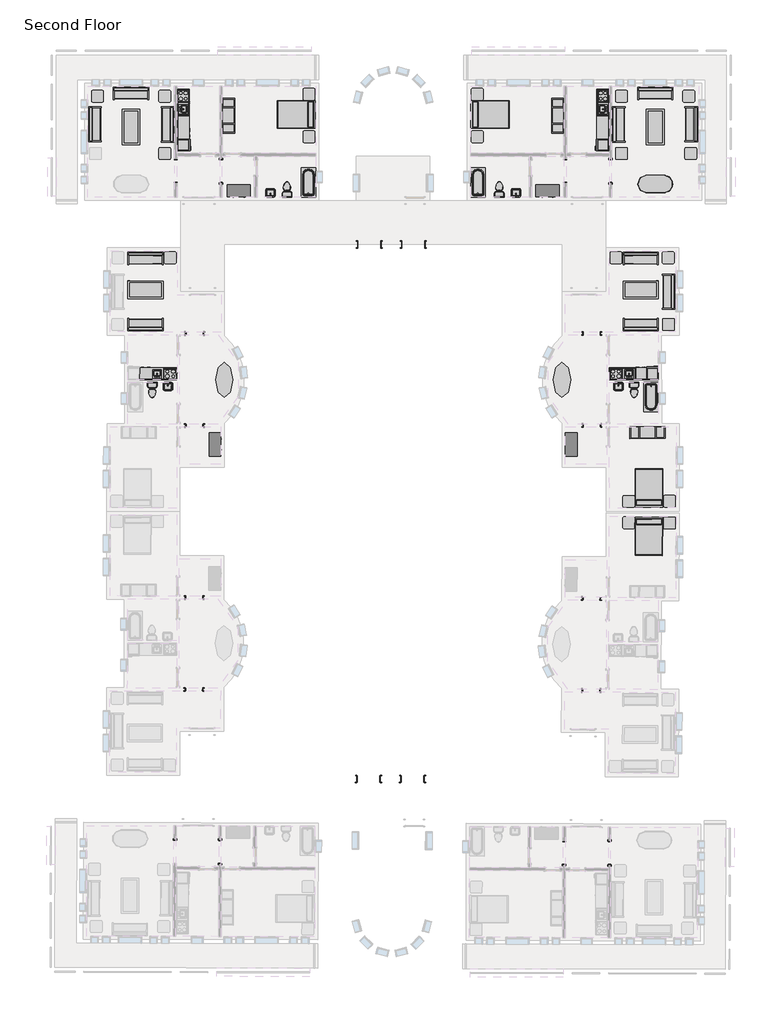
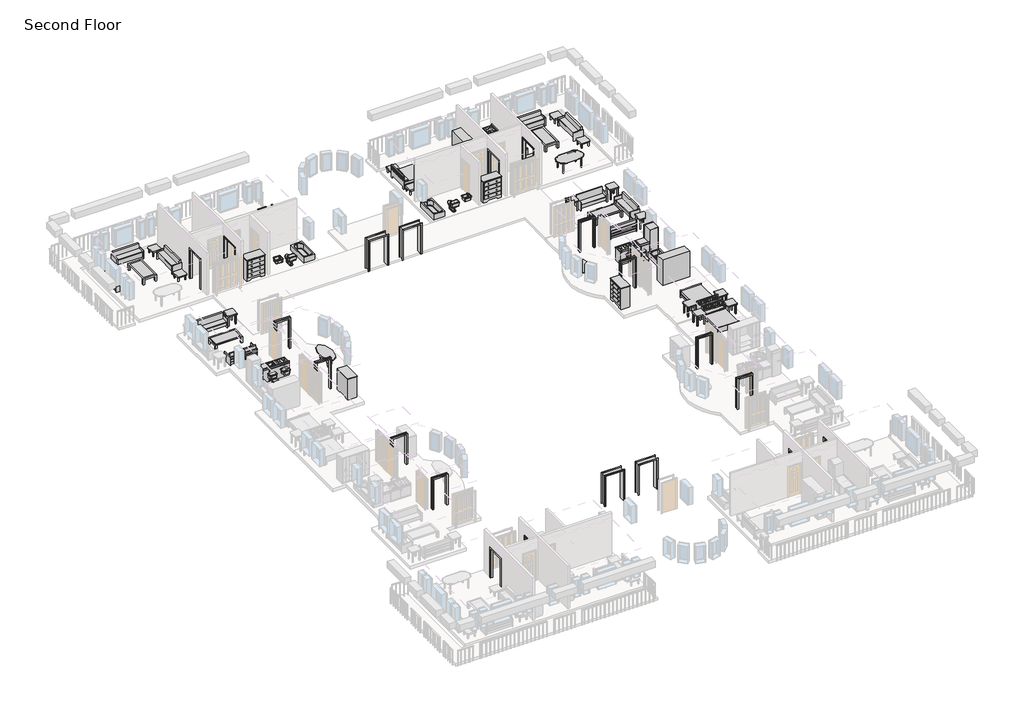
# One storey, part 8 of 8: 52 furniture elements, 35 proxies, 15 flow terminals.
"""IFC4 building model written with IfcOpenShell, lengths in millimetres."""

from ifc_helpers import new_model, si_unit, origin, place, context, project, spatial, transform, mapped, element, save
from components import m_cook_top_4_unit2_0615_x_500mm_249f3515, m_cook_top_4_unit2_0615_x_500mm_c91639ce, m_dishwasher_610_x_610_x_875mm_54ecfc4c, m_dishwasher_610_x_610_x_875mm_75336c20, m_kitchenette_medium_1372mm_e05c6bec, m_kitchenette_medium_1372mm_39f1532f, m_passage_opening_cased_0915_x_2134mm_b7ef4dee, m_passage_opening_cased_0915_x_2134mm_5e741ba8, m_passage_opening_cased_1220_x_2134mm_87a8d9c2, m_passage_opening_cased_1220_x_2134mm_f04423fa, m_passage_opening_cased_1220_x_2134mm_7296280d, m_passage_opening_cased_1220_x_2134mm_b92f2863, m_refrigerator_600_x_660mm_a466bf94, m_refrigerator_600_x_660mm_0a899b9c, m_sink_kitchen_island_450_x_450mm_f969cf2d, m_sink_kitchen_island_450_x_450mm_f6c2c534, m_sink_vanity_square_500_x_440mm_1e229b74, m_sink_vanity_square_500_x_440mm_f3cfe680, m_toilet_domestic_3d_m_toilet_domestic_3d_5cb52bd4, m_toilet_domestic_3d_m_toilet_domestic_3d_183bbd19, m_toilet_domestic_3d_m_toilet_domestic_3d_43425dfb, m_toilet_domestic_3d_m_toilet_domestic_3d_5530cc89, m_tub_rectangular_3d_m_tub_rectangular_3d_3a981ad5, m_tub_rectangular_3d_m_tub_rectangular_3d_c2020133, m_bed_shaker_1422_x_1981mm_double_096e7f55, m_bed_shaker_1422_x_1981mm_double_097b173b, m_counter_top_w_sink_hole_600mm_depth_1fb56bb9, m_counter_top_w_sink_hole_600mm_depth_08c4f679, m_counter_top_w_sink_hole_600mm_depth_60928b92, m_counter_top_w_sink_hole_600mm_depth_7e9aa94d, m_dresser_1220_x_1525_x_0610mm_18e1f140, m_dresser_1220_x_1525_x_0610mm_4e5de046, m_entertainment_center_1830_x_1830_x_0610mm_f77a9b93, m_entertainment_center_1830_x_1830_x_0610mm_4f6058a0, m_sofa_1830mm_58d08fc1, m_sofa_1830mm_3da2e71b, m_sofa1_1830mm_f9e8a66b, m_sofa1_1830mm_493d6964, m_table_coffee_0915_x_1830_x_0457mm_134cd960, m_table_coffee_0915_x_1830_x_0457mm_595c1ebd, m_table_dining_oval_0915_x_1830mm_a7cfbe21, m_table_ellipse_1800_x_900mm_fd46d5a5, m_table_ellipse_1800_x_900mm_f7269293, m_table_end_cb6ea12e, m_table_end_aa2764bc, m_table_end_0610_x_0160mm_e0e5b28f, m_table_end_0610_x_0160mm_ccef8dc9

model = new_model("IFC4")

# Units and contexts
model_context = context("Model", 3, world=origin())
ifc_project = project(units=[si_unit("LENGTHUNIT", "METRE", prefix="MILLI")], contexts=[model_context])

# Site, building, storey
site = spatial("IfcSite", under=ifc_project)
building = spatial("IfcBuilding", under=site)
storey = spatial("IfcBuildingStorey", under=building, Name="Second Floor", Elevation=3048.0)

# Proxies
placement = place(None, origin())
m_cook_top_4_unit2_0615_x_500mm_shape = m_cook_top_4_unit2_0615_x_500mm_249f3515(model_context)
element("IfcBuildingElementProxy", 1, Name="M_Cook Top-4 Unit2 : 0615 x 500mm", ObjectType="M_Cook Top-4 Unit2 : 0615 x 500mm", at=placement, inside=storey, context=model_context, shape_type="MappedRepresentation", body=[
    mapped(m_cook_top_4_unit2_0615_x_500mm_shape, transform((-8054.9916203, 1914.054661, 3048.0), x_axis=(0.0, -1.0, 0.0), y_axis=(1.0, 0.0, 0.0), z_axis=(0.0, 0.0, 1.0))),
])
element("IfcBuildingElementProxy", 2, Name="M_Cook Top-4 Unit2 : 0615 x 500mm", ObjectType="M_Cook Top-4 Unit2 : 0615 x 500mm", at=placement, inside=storey, context=model_context, shape_type="MappedRepresentation", body=[
    mapped(m_cook_top_4_unit2_0615_x_500mm_shape, transform((-30530.5448332, -12522.1734226, 3048.0), x_axis=(-0.9999989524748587, 0.0014474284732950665, 0.0), y_axis=(-0.0014474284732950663, -0.9999989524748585, 0.0), z_axis=(0.0, 0.0, 0.9999999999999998))),
])
m_cook_top_4_unit2_0615_x_500mm_2_shape = m_cook_top_4_unit2_0615_x_500mm_c91639ce(model_context)
element("IfcBuildingElementProxy", 3, Name="M_Cook Top-4 Unit2 : 0615 x 500mm", ObjectType="M_Cook Top-4 Unit2 : 0615 x 500mm", at=placement, inside=storey, context=model_context, shape_type="MappedRepresentation", body=[
    mapped(m_cook_top_4_unit2_0615_x_500mm_2_shape, transform((-7383.6384074, -12522.1734226, 3048.0), x_axis=(0.9999989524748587, 0.0014474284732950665, 0.0), y_axis=(-0.0014474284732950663, 0.9999989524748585, 0.0), z_axis=(0.0, 0.0, 0.9999999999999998))),
])
element("IfcBuildingElementProxy", 4, Name="M_Cook Top-4 Unit2 : 0615 x 500mm", ObjectType="M_Cook Top-4 Unit2 : 0615 x 500mm", at=placement, inside=storey, context=model_context, shape_type="MappedRepresentation", body=[
    mapped(m_cook_top_4_unit2_0615_x_500mm_2_shape, transform((-29859.1916203, 1914.054661, 3048.0), x_axis=(0.0, -1.0, 0.0), y_axis=(1.0, 0.0, 0.0), z_axis=(0.0, 0.0, 1.0))),
])
m_dishwasher_610_x_610_x_875mm_shape = m_dishwasher_610_x_610_x_875mm_54ecfc4c(model_context)
element("IfcBuildingElementProxy", 5, Name="M_Dishwasher : 610 x 610 x 875mm", ObjectType="M_Dishwasher : 610 x 610 x 875mm", at=placement, inside=storey, context=model_context, shape_type="MappedRepresentation", body=[
    mapped(m_dishwasher_610_x_610_x_875mm_shape, transform((-8321.6411851, 353.5721295, 3048.0), x_axis=(0.0, -1.0, 0.0), y_axis=(1.0, 0.0, 0.0), z_axis=(0.0, 0.0, 1.0))),
])
element("IfcBuildingElementProxy", 6, Name="M_Dishwasher : 610 x 610 x 875mm", ObjectType="M_Dishwasher : 610 x 610 x 875mm", at=placement, inside=storey, context=model_context, shape_type="MappedRepresentation", body=[
    mapped(m_dishwasher_610_x_610_x_875mm_shape, transform((-31445.6404496, -12254.1990417, 3048.0), x_axis=(-0.9999989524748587, 0.0014474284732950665, 0.0), y_axis=(-0.0014474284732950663, -0.9999989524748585, 0.0), z_axis=(0.0, 0.0, 0.9999999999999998))),
])
m_dishwasher_610_x_610_x_875mm_2_shape = m_dishwasher_610_x_610_x_875mm_75336c20(model_context)
element("IfcBuildingElementProxy", 7, Name="M_Dishwasher : 610 x 610 x 875mm", ObjectType="M_Dishwasher : 610 x 610 x 875mm", at=placement, inside=storey, context=model_context, shape_type="MappedRepresentation", body=[
    mapped(m_dishwasher_610_x_610_x_875mm_2_shape, transform((-6468.5427911, -12254.1990417, 3048.0), x_axis=(0.9999989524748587, 0.0014474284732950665, 0.0), y_axis=(-0.0014474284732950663, 0.9999989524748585, 0.0), z_axis=(0.0, 0.0, 0.9999999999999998))),
])
element("IfcBuildingElementProxy", 8, Name="M_Dishwasher : 610 x 610 x 875mm", ObjectType="M_Dishwasher : 610 x 610 x 875mm", at=placement, inside=storey, context=model_context, shape_type="MappedRepresentation", body=[
    mapped(m_dishwasher_610_x_610_x_875mm_2_shape, transform((-29592.5420555, 353.5721295, 3048.0), x_axis=(0.0, -1.0, 0.0), y_axis=(1.0, 0.0, 0.0), z_axis=(0.0, 0.0, 1.0))),
])
m_kitchenette_medium_1372mm_shape = m_kitchenette_medium_1372mm_e05c6bec(model_context)
element("IfcBuildingElementProxy", 9, Name="M_Kitchenette - Medium : 1372mm", ObjectType="M_Kitchenette - Medium : 1372mm", at=placement, inside=storey, context=model_context, shape_type="MappedRepresentation", body=[
    mapped(m_kitchenette_medium_1372mm_shape, transform((-7749.9916203, 1589.7923659, 3048.0), x_axis=(0.0, -1.0, 0.0), y_axis=(1.0, 0.0, 0.0), z_axis=(0.0, 0.0, 1.0))),
])
m_kitchenette_medium_1372mm_2_shape = m_kitchenette_medium_1372mm_39f1532f(model_context)
element("IfcBuildingElementProxy", 10, Name="M_Kitchenette - Medium : 1372mm", ObjectType="M_Kitchenette - Medium : 1372mm", at=placement, inside=storey, context=model_context, shape_type="MappedRepresentation", body=[
    mapped(m_kitchenette_medium_1372mm_2_shape, transform((-30164.1916203, 1589.7923659, 3048.0), x_axis=(0.0, -1.0, 0.0), y_axis=(1.0, 0.0, 0.0), z_axis=(0.0, 0.0, 1.0))),
])
element("IfcBuildingElementProxy", 11, Name="M_Kitchenette - Medium1 : 1372mm 2", ObjectType="M_Kitchenette - Medium1 : 1372mm 2", at=placement, inside=storey, context=model_context, shape_type="MappedRepresentation", body=[
    mapped(m_kitchenette_medium_1372mm_shape, transform((-30855.2482543, -12826.7037567, 3048.0), x_axis=(-0.9999989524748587, 0.0014474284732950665, 0.0), y_axis=(-0.0014474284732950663, -0.9999989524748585, 0.0), z_axis=(0.0, 0.0, 0.9999999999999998))),
])
element("IfcBuildingElementProxy", 12, Name="M_Kitchenette - Medium1 : 1372mm 2", ObjectType="M_Kitchenette - Medium1 : 1372mm 2", at=placement, inside=storey, context=model_context, shape_type="MappedRepresentation", body=[
    mapped(m_kitchenette_medium_1372mm_2_shape, transform((-7058.9349863, -12826.7037567, 3048.0), x_axis=(0.9999989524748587, 0.0014474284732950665, 0.0), y_axis=(-0.0014474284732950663, 0.9999989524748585, 0.0), z_axis=(0.0, 0.0, 0.9999999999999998))),
])
m_passage_opening_cased_0915_x_2134mm_shape = m_passage_opening_cased_0915_x_2134mm_b7ef4dee(model_context)
element("IfcBuildingElementProxy", 13, Name="M_Passage Opening-Cased : 0915 x 2134mm", ObjectType="M_Passage Opening-Cased : 0915 x 2134mm", at=placement, inside=storey, context=model_context, shape_type="MappedRepresentation", body=[
    mapped(m_passage_opening_cased_0915_x_2134mm_shape, transform((-29263.1209408, -10426.1057324, 3048.0), x_axis=(0.9999989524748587, -0.0014474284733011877, 0.0), y_axis=(0.0014474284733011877, 0.9999989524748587, 0.0), z_axis=(0.0, 0.0, 1.0))),
])
element("IfcBuildingElementProxy", 14, Name="M_Passage Opening-Cased : 0915 x 2134mm", ObjectType="M_Passage Opening-Cased : 0915 x 2134mm", at=placement, inside=storey, context=model_context, shape_type="MappedRepresentation", body=[
    mapped(m_passage_opening_cased_0915_x_2134mm_shape, transform((-29270.0280695, -15198.1007336, 3048.0), x_axis=(0.9999989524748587, -0.0014474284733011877, 0.0), y_axis=(0.0014474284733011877, 0.9999989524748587, 0.0), z_axis=(0.0, 0.0, 1.0))),
])
element("IfcBuildingElementProxy", 15, Name="M_Passage Opening-Cased : 0915 x 2134mm", ObjectType="M_Passage Opening-Cased : 0915 x 2134mm", at=placement, inside=storey, context=model_context, shape_type="MappedRepresentation", body=[
    mapped(m_passage_opening_cased_0915_x_2134mm_shape, transform((-8677.908724, -28973.7552644, 3048.0), x_axis=(-0.9999905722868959, 0.004342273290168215, 0.0), y_axis=(-0.004342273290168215, -0.9999905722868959, 0.0), z_axis=(0.0, 0.0, 1.0))),
])
element("IfcBuildingElementProxy", 16, Name="M_Passage Opening-Cased : 0915 x 2134mm", ObjectType="M_Passage Opening-Cased : 0915 x 2134mm", at=placement, inside=storey, context=model_context, shape_type="MappedRepresentation", body=[
    mapped(m_passage_opening_cased_0915_x_2134mm_shape, transform((-8657.1873959, -24201.8002534, 3048.0), x_axis=(-0.9999905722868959, 0.004342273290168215, 0.0), y_axis=(-0.004342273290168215, -0.9999905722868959, 0.0), z_axis=(0.0, 0.0, 1.0))),
])
m_passage_opening_cased_0915_x_2134mm_2_shape = m_passage_opening_cased_0915_x_2134mm_5e741ba8(model_context)
element("IfcBuildingElementProxy", 17, Name="M_Passage Opening-Cased : 0915 x 2134mm", ObjectType="M_Passage Opening-Cased : 0915 x 2134mm", at=placement, inside=storey, context=model_context, shape_type="MappedRepresentation", body=[
    mapped(m_passage_opening_cased_0915_x_2134mm_2_shape, transform((-8651.0622999, -10426.1057324, 3048.0), x_axis=(-0.9999989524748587, -0.0014474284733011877, 0.0), y_axis=(0.0014474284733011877, -0.9999989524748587, 0.0), z_axis=(0.0, 0.0, 1.0))),
])
element("IfcBuildingElementProxy", 18, Name="M_Passage Opening-Cased : 0915 x 2134mm", ObjectType="M_Passage Opening-Cased : 0915 x 2134mm", at=placement, inside=storey, context=model_context, shape_type="MappedRepresentation", body=[
    mapped(m_passage_opening_cased_0915_x_2134mm_2_shape, transform((-8644.1551712, -15198.1007336, 3048.0), x_axis=(-0.9999989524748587, -0.0014474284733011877, 0.0), y_axis=(0.0014474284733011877, -0.9999989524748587, 0.0), z_axis=(0.0, 0.0, 1.0))),
])
element("IfcBuildingElementProxy", 19, Name="M_Passage Opening-Cased : 0915 x 2134mm", ObjectType="M_Passage Opening-Cased : 0915 x 2134mm", at=placement, inside=storey, context=model_context, shape_type="MappedRepresentation", body=[
    mapped(m_passage_opening_cased_0915_x_2134mm_2_shape, transform((-29289.8809984, -28914.0863657, 3048.0), x_axis=(0.9999989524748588, -0.0014474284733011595, 0.0), y_axis=(0.0014474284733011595, 0.9999989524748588, 0.0), z_axis=(0.0, 0.0, 1.0))),
])
element("IfcBuildingElementProxy", 20, Name="M_Passage Opening-Cased : 0915 x 2134mm", ObjectType="M_Passage Opening-Cased : 0915 x 2134mm", at=placement, inside=storey, context=model_context, shape_type="MappedRepresentation", body=[
    mapped(m_passage_opening_cased_0915_x_2134mm_2_shape, transform((-29282.9738697, -24142.0913645, 3048.0), x_axis=(0.9999989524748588, -0.0014474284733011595, 0.0), y_axis=(0.0014474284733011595, 0.9999989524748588, 0.0), z_axis=(0.0, 0.0, 1.0))),
])
m_passage_opening_cased_1220_x_2134mm_shape = m_passage_opening_cased_1220_x_2134mm_87a8d9c2(model_context)
element("IfcBuildingElementProxy", 21, Name="M_Passage Opening-Cased : 1220 x 2134mm", ObjectType="M_Passage Opening-Cased : 1220 x 2134mm", at=placement, inside=storey, context=model_context, shape_type="MappedRepresentation", body=[
    mapped(m_passage_opening_cased_1220_x_2134mm_shape, transform((-7665.3416203, -1982.6925047, 3048.0), x_axis=(0.0, 1.0, 0.0), y_axis=(-1.0, 0.0, 0.0), z_axis=(0.0, 0.0, 1.0))),
])
element("IfcBuildingElementProxy", 22, Name="M_Passage Opening-Cased : 1220 x 2134mm", ObjectType="M_Passage Opening-Cased : 1220 x 2134mm", at=placement, inside=storey, context=model_context, shape_type="MappedRepresentation", body=[
    mapped(m_passage_opening_cased_1220_x_2134mm_shape, transform((-10019.0916203, -1999.0698181, 3048.0), x_axis=(0.0, -1.0, 0.0), y_axis=(1.0, 0.0, 0.0), z_axis=(0.0, 0.0, 1.0))),
])
element("IfcBuildingElementProxy", 23, Name="M_Passage Opening-Cased : 1220 x 2134mm", ObjectType="M_Passage Opening-Cased : 1220 x 2134mm", at=placement, inside=storey, context=model_context, shape_type="MappedRepresentation", body=[
    mapped(m_passage_opening_cased_1220_x_2134mm_shape, transform((-30300.0399955, -37354.6106974, 3048.0), x_axis=(-0.0028948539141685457, -0.9999958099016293, 0.0), y_axis=(0.9999958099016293, -0.0028948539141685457, 0.0), z_axis=(0.0, 0.0, 1.0))),
])
element("IfcBuildingElementProxy", 24, Name="M_Passage Opening-Cased : 1220 x 2134mm", ObjectType="M_Passage Opening-Cased : 1220 x 2134mm", at=placement, inside=storey, context=model_context, shape_type="MappedRepresentation", body=[
    mapped(m_passage_opening_cased_1220_x_2134mm_shape, transform((-27946.252448, -37345.047215, 3048.0), x_axis=(0.0028948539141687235, 0.9999958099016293, 0.0), y_axis=(-0.9999958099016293, 0.0028948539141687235, 0.0), z_axis=(0.0, 0.0, 1.0))),
])
m_passage_opening_cased_1220_x_2134mm_2_shape = m_passage_opening_cased_1220_x_2134mm_f04423fa(model_context)
element("IfcBuildingElementProxy", 25, Name="M_Passage Opening-Cased : 1220 x 2134mm", ObjectType="M_Passage Opening-Cased : 1220 x 2134mm", at=placement, inside=storey, context=model_context, shape_type="MappedRepresentation", body=[
    mapped(m_passage_opening_cased_1220_x_2134mm_2_shape, transform((-17916.280277, -5800.8811614, 3048.0), x_axis=(-1.0, 0.0, 0.0), y_axis=(0.0, -1.0, 0.0), z_axis=(0.0, 0.0, 1.0))),
])
element("IfcBuildingElementProxy", 26, Name="M_Passage Opening-Cased : 1220 x 2134mm", ObjectType="M_Passage Opening-Cased : 1220 x 2134mm", at=placement, inside=storey, context=model_context, shape_type="MappedRepresentation", body=[
    mapped(m_passage_opening_cased_1220_x_2134mm_2_shape, transform((-20185.9029636, -5800.8811614, 3048.0), x_axis=(1.0, 0.0, 0.0), y_axis=(0.0, 1.0, 0.0), z_axis=(0.0, 0.0, 1.0))),
])
m_passage_opening_cased_1220_x_2134mm_3_shape = m_passage_opening_cased_1220_x_2134mm_7296280d(model_context)
element("IfcBuildingElementProxy", 27, Name="M_Passage Opening-Cased : 1220 x 2134mm", ObjectType="M_Passage Opening-Cased : 1220 x 2134mm", at=placement, inside=storey, context=model_context, shape_type="MappedRepresentation", body=[
    mapped(m_passage_opening_cased_1220_x_2134mm_3_shape, transform((-30248.8416203, -1982.6925047, 3048.0), x_axis=(0.0, 1.0, 0.0), y_axis=(-1.0, 0.0, 0.0), z_axis=(0.0, 0.0, 1.0))),
])
element("IfcBuildingElementProxy", 28, Name="M_Passage Opening-Cased : 1220 x 2134mm", ObjectType="M_Passage Opening-Cased : 1220 x 2134mm", at=placement, inside=storey, context=model_context, shape_type="MappedRepresentation", body=[
    mapped(m_passage_opening_cased_1220_x_2134mm_3_shape, transform((-27895.0916203, -1999.0698181, 3048.0), x_axis=(0.0, -1.0, 0.0), y_axis=(1.0, 0.0, 0.0), z_axis=(0.0, 0.0, 1.0))),
])
element("IfcBuildingElementProxy", 29, Name="M_Passage Opening-Cased : 1220 x 2134mm", ObjectType="M_Passage Opening-Cased : 1220 x 2134mm", at=placement, inside=storey, context=model_context, shape_type="MappedRepresentation", body=[
    mapped(m_passage_opening_cased_1220_x_2134mm_3_shape, transform((-7716.6346226, -37419.9866307, 3048.0), x_axis=(-0.0028948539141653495, -0.9999958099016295, 0.0), y_axis=(0.9999958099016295, -0.0028948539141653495, 0.0), z_axis=(0.0, 0.0, 1.0))),
])
element("IfcBuildingElementProxy", 30, Name="M_Passage Opening-Cased : 1220 x 2134mm", ObjectType="M_Passage Opening-Cased : 1220 x 2134mm", at=placement, inside=storey, context=model_context, shape_type="MappedRepresentation", body=[
    mapped(m_passage_opening_cased_1220_x_2134mm_3_shape, transform((-10070.3273502, -37396.7956235, 3048.0), x_axis=(0.0028948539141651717, 0.9999958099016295, 0.0), y_axis=(-0.9999958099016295, 0.0028948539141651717, 0.0), z_axis=(0.0, 0.0, 1.0))),
])
m_passage_opening_cased_1220_x_2134mm_4_shape = m_passage_opening_cased_1220_x_2134mm_b92f2863(model_context)
element("IfcBuildingElementProxy", 31, Name="M_Passage Opening-Cased : 1220 x 2134mm", ObjectType="M_Passage Opening-Cased : 1220 x 2134mm", at=placement, inside=storey, context=model_context, shape_type="MappedRepresentation", body=[
    mapped(m_passage_opening_cased_1220_x_2134mm_4_shape, transform((-17956.4772285, -33572.1390027, 3048.0), x_axis=(-0.9999958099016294, 0.0028948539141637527, 0.0), y_axis=(-0.0028948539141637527, -0.9999958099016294, 0.0), z_axis=(0.0, 0.0, 1.0))),
])
element("IfcBuildingElementProxy", 32, Name="M_Passage Opening-Cased : 1220 x 2134mm", ObjectType="M_Passage Opening-Cased : 1220 x 2134mm", at=placement, inside=storey, context=model_context, shape_type="MappedRepresentation", body=[
    mapped(m_passage_opening_cased_1220_x_2134mm_4_shape, transform((-20226.0904051, -33565.5687766, 3048.0), x_axis=(0.9999958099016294, -0.0028948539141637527, 0.0), y_axis=(0.0028948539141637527, 0.9999958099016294, 0.0), z_axis=(0.0, 0.0, 1.0))),
])
m_refrigerator_600_x_660mm_shape = m_refrigerator_600_x_660mm_a466bf94(model_context)
element("IfcBuildingElementProxy", 33, Name="M_Refrigerator : 600 x 660mm", ObjectType="M_Refrigerator : 600 x 660mm", at=placement, inside=storey, context=model_context, shape_type="MappedRepresentation", body=[
    mapped(m_refrigerator_600_x_660mm_shape, transform((-8046.2067105, -687.7464817, 3048.0), x_axis=(0.0, -1.0, 0.0), y_axis=(1.0, 0.0, 0.0), z_axis=(0.0, 0.0, 1.0))),
])
m_refrigerator_600_x_660mm_2_shape = m_refrigerator_600_x_660mm_0a899b9c(model_context)
element("IfcBuildingElementProxy", 34, Name="M_Refrigerator : 600 x 660mm", ObjectType="M_Refrigerator : 600 x 660mm", at=placement, inside=storey, context=model_context, shape_type="MappedRepresentation", body=[
    mapped(m_refrigerator_600_x_660mm_2_shape, transform((-5426.8265991, -12528.1259936, 3048.0), x_axis=(0.9999989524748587, 0.0014474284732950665, 0.0), y_axis=(-0.0014474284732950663, 0.9999989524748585, 0.0), z_axis=(0.0, 0.0, 0.9999999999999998))),
])
element("IfcBuildingElementProxy", 35, Name="M_Refrigerator : 600 x 660mm", ObjectType="M_Refrigerator : 600 x 660mm", at=placement, inside=storey, context=model_context, shape_type="MappedRepresentation", body=[
    mapped(m_refrigerator_600_x_660mm_2_shape, transform((-29867.9765301, -687.7464817, 3048.0), x_axis=(0.0, -1.0, 0.0), y_axis=(1.0, 0.0, 0.0), z_axis=(0.0, 0.0, 1.0))),
])

# Flow terminals
m_sink_kitchen_island_450_x_450mm_shape = m_sink_kitchen_island_450_x_450mm_f969cf2d(model_context)
element("IfcFlowTerminal", 36, ObjectType="M_Sink Kitchen-Island : 450 x 450mm", at=placement, inside=storey, context=model_context, shape_type="MappedRepresentation", body=[
    mapped(m_sink_kitchen_island_450_x_450mm_shape, transform((-8057.3370214, 1243.7439015, 3048.0), x_axis=(0.0, -1.0, 0.0), y_axis=(1.0, 0.0, 0.0), z_axis=(0.0, 0.0, 1.0))),
])
element("IfcFlowTerminal", 37, ObjectType="M_Sink Kitchen-Island : 450 x 450mm", at=placement, inside=storey, context=model_context, shape_type="MappedRepresentation", body=[
    mapped(m_sink_kitchen_island_450_x_450mm_shape, transform((-31200.8514957, -12518.8577971, 3048.0), x_axis=(-0.9999989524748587, 0.0014474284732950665, 0.0), y_axis=(-0.0014474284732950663, -0.9999989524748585, 0.0), z_axis=(0.0, 0.0, 0.9999999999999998))),
])
m_sink_kitchen_island_450_x_450mm_2_shape = m_sink_kitchen_island_450_x_450mm_f6c2c534(model_context)
element("IfcFlowTerminal", 38, ObjectType="M_Sink Kitchen-Island : 450 x 450mm", at=placement, inside=storey, context=model_context, shape_type="MappedRepresentation", body=[
    mapped(m_sink_kitchen_island_450_x_450mm_2_shape, transform((-6713.331745, -12518.8577971, 3048.0), x_axis=(0.9999989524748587, 0.0014474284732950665, 0.0), y_axis=(-0.0014474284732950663, 0.9999989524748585, 0.0), z_axis=(0.0, 0.0, 0.9999999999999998))),
])
element("IfcFlowTerminal", 39, ObjectType="M_Sink Kitchen-Island : 450 x 450mm", at=placement, inside=storey, context=model_context, shape_type="MappedRepresentation", body=[
    mapped(m_sink_kitchen_island_450_x_450mm_2_shape, transform((-29856.8462192, 1243.7439015, 3048.0), x_axis=(0.0, -1.0, 0.0), y_axis=(1.0, 0.0, 0.0), z_axis=(0.0, 0.0, 1.0))),
])
m_sink_vanity_square_500_x_440mm_shape = m_sink_vanity_square_500_x_440mm_1e229b74(model_context)
element("IfcFlowTerminal", 40, ObjectType="M_Sink Vanity-Square : 500 x 440mm", at=placement, inside=storey, context=model_context, shape_type="MappedRepresentation", body=[
    mapped(m_sink_vanity_square_500_x_440mm_shape, transform((-12563.5523798, -3158.1107603, 3048.0), x_axis=(-1.0, 0.0, 0.0), y_axis=(0.0, -1.0, 0.0), z_axis=(0.0, 0.0, 1.0))),
])
element("IfcFlowTerminal", 41, ObjectType="M_Sink Vanity-Square : 500 x 440mm", at=placement, inside=storey, context=model_context, shape_type="MappedRepresentation", body=[
    mapped(m_sink_vanity_square_500_x_440mm_shape, transform((-30677.3455366, -13134.5069817, 3048.0), x_axis=(0.9999989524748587, -0.001447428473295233, 0.0), y_axis=(0.0014474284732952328, 0.9999989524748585, 0.0), z_axis=(0.0, 0.0, 0.9999999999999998))),
])
m_sink_vanity_square_500_x_440mm_2_shape = m_sink_vanity_square_500_x_440mm_f3cfe680(model_context)
element("IfcFlowTerminal", 42, ObjectType="M_Sink Vanity-Square : 500 x 440mm", at=placement, inside=storey, context=model_context, shape_type="MappedRepresentation", body=[
    mapped(m_sink_vanity_square_500_x_440mm_2_shape, transform((-7236.8377041, -13134.5069817, 3048.0), x_axis=(-0.9999989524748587, -0.001447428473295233, 0.0), y_axis=(0.0014474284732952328, -0.9999989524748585, 0.0), z_axis=(0.0, 0.0, 0.9999999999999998))),
])
element("IfcFlowTerminal", 43, ObjectType="M_Sink Vanity-Square : 500 x 440mm", at=placement, inside=storey, context=model_context, shape_type="MappedRepresentation", body=[
    mapped(m_sink_vanity_square_500_x_440mm_2_shape, transform((-25350.6308609, -3158.1107603, 3048.0), x_axis=(1.0, 0.0, 0.0), y_axis=(0.0, 1.0, 0.0), z_axis=(0.0, 0.0, 1.0))),
])
m_toilet_domestic_3d_m_toilet_domestic_3d_shape = m_toilet_domestic_3d_m_toilet_domestic_3d_5cb52bd4(model_context)
m_toilet_domestic_3d_m_toilet_domestic_3d_2_shape = m_toilet_domestic_3d_m_toilet_domestic_3d_183bbd19(model_context)
element("IfcFlowTerminal", 44, ObjectType="M_Toilet-Domestic-3D : M_Toilet-Domestic-3D", at=placement, inside=storey, context=model_context, shape_type="MappedRepresentation", body=[
    mapped(m_toilet_domestic_3d_m_toilet_domestic_3d_shape, transform((-13440.7376477, -2845.185134, 3048.0), x_axis=(-1.0, 0.0, 0.0), y_axis=(0.0, -1.0, 0.0), z_axis=(0.0, 0.0, 1.0))),
    mapped(m_toilet_domestic_3d_m_toilet_domestic_3d_2_shape, transform((-13440.7376477, -2845.185134, 3048.0), x_axis=(-1.0, 0.0, 0.0), y_axis=(0.0, -1.0, 0.0), z_axis=(0.0, 0.0, 1.0))),
])
m_toilet_domestic_3d_m_toilet_domestic_3d_3_shape = m_toilet_domestic_3d_m_toilet_domestic_3d_43425dfb(model_context)
m_toilet_domestic_3d_m_toilet_domestic_3d_4_shape = m_toilet_domestic_3d_m_toilet_domestic_3d_5530cc89(model_context)
element("IfcFlowTerminal", 45, ObjectType="M_Toilet-Domestic-3D : M_Toilet-Domestic-3D", at=placement, inside=storey, context=model_context, shape_type="MappedRepresentation", body=[
    mapped(m_toilet_domestic_3d_m_toilet_domestic_3d_3_shape, transform((-24473.445593, -2845.185134, 3048.0), x_axis=(1.0, 0.0, 0.0), y_axis=(0.0, 1.0, 0.0), z_axis=(0.0, 0.0, 1.0))),
    mapped(m_toilet_domestic_3d_m_toilet_domestic_3d_4_shape, transform((-24473.445593, -2845.185134, 3048.0), x_axis=(1.0, 0.0, 0.0), y_axis=(0.0, 1.0, 0.0), z_axis=(0.0, 0.0, 1.0))),
])
element("IfcFlowTerminal", 46, ObjectType="M_Toilet-Domestic-3D1 : M_Toilet-Domestic-3D", at=placement, inside=storey, context=model_context, shape_type="MappedRepresentation", body=[
    mapped(m_toilet_domestic_3d_m_toilet_domestic_3d_shape, transform((-31475.0435019, -13456.0033339, 3048.0), x_axis=(0.9999989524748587, -0.001447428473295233, 0.0), y_axis=(0.0014474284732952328, 0.9999989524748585, 0.0), z_axis=(0.0, 0.0, 0.9999999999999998))),
    mapped(m_toilet_domestic_3d_m_toilet_domestic_3d_2_shape, transform((-31475.0435019, -13456.0033339, 3048.0), x_axis=(0.9999989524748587, -0.001447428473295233, 0.0), y_axis=(0.0014474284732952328, 0.9999989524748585, 0.0), z_axis=(0.0, 0.0, 0.9999999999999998))),
])
element("IfcFlowTerminal", 47, ObjectType="M_Toilet-Domestic-3D1 : M_Toilet-Domestic-3D", at=placement, inside=storey, context=model_context, shape_type="MappedRepresentation", body=[
    mapped(m_toilet_domestic_3d_m_toilet_domestic_3d_3_shape, transform((-6439.1397387, -13456.0033339, 3048.0), x_axis=(-0.9999989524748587, -0.001447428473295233, 0.0), y_axis=(0.0014474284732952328, -0.9999989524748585, 0.0), z_axis=(0.0, 0.0, 0.9999999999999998))),
    mapped(m_toilet_domestic_3d_m_toilet_domestic_3d_4_shape, transform((-6439.1397387, -13456.0033339, 3048.0), x_axis=(-0.9999989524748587, -0.001447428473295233, 0.0), y_axis=(0.0014474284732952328, -0.9999989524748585, 0.0), z_axis=(0.0, 0.0, 0.9999999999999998))),
])
m_tub_rectangular_3d_m_tub_rectangular_3d_shape = m_tub_rectangular_3d_m_tub_rectangular_3d_3a981ad5(model_context)
element("IfcFlowTerminal", 48, ObjectType="M_Tub-Rectangular-3D : M_Tub-Rectangular-3D", at=placement, inside=storey, context=model_context, shape_type="MappedRepresentation", body=[
    mapped(m_tub_rectangular_3d_m_tub_rectangular_3d_shape, transform((-15110.3416203, -2229.2781927, 3048.0), x_axis=(0.0, 1.0, 0.0), y_axis=(-1.0, 0.0, 0.0), z_axis=(0.0, 0.0, 1.0))),
])
element("IfcFlowTerminal", 49, ObjectType="M_Tub-Rectangular-3D : M_Tub-Rectangular-3D", at=placement, inside=storey, context=model_context, shape_type="MappedRepresentation", body=[
    mapped(m_tub_rectangular_3d_m_tub_rectangular_3d_shape, transform((-5003.7957874, -14069.8333606, 3048.0), x_axis=(0.0014474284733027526, -0.9999989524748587, 0.0), y_axis=(0.9999989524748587, 0.0014474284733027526, 0.0), z_axis=(0.0, 0.0, 1.0))),
])
m_tub_rectangular_3d_m_tub_rectangular_3d_2_shape = m_tub_rectangular_3d_m_tub_rectangular_3d_c2020133(model_context)
element("IfcFlowTerminal", 50, ObjectType="M_Tub-Rectangular-3D : M_Tub-Rectangular-3D", at=placement, inside=storey, context=model_context, shape_type="MappedRepresentation", body=[
    mapped(m_tub_rectangular_3d_m_tub_rectangular_3d_2_shape, transform((-22803.8416203, -2229.2781927, 3048.0), x_axis=(0.0, 1.0, 0.0), y_axis=(-1.0, 0.0, 0.0), z_axis=(0.0, 0.0, 1.0))),
])

# Furniture
m_bed_shaker_1422_x_1981mm_double_shape = m_bed_shaker_1422_x_1981mm_double_096e7f55(model_context)
element("IfcFurniture", 51, ObjectType="M_Bed-Shaker : 1422 x 1981mm - Double", at=placement, inside=storey, context=model_context, shape_type="MappedRepresentation", body=[
    mapped(m_bed_shaker_1422_x_1981mm_double_shape, transform((-14905.3416203, 963.9688386, 3048.0), x_axis=(0.0, 1.0, 0.0), y_axis=(-1.0, 0.0, 0.0), z_axis=(0.0, 0.0, 1.0))),
])
element("IfcFurniture", 52, ObjectType="M_Bed-Shaker : 1422 x 1981mm - Double", at=placement, inside=storey, context=model_context, shape_type="MappedRepresentation", body=[
    mapped(m_bed_shaker_1422_x_1981mm_double_shape, transform((-5649.5787089, -19977.8202898, 3048.0), x_axis=(0.9999905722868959, -0.004342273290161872, 0.0), y_axis=(0.004342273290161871, 0.9999905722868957, 0.0), z_axis=(0.0, 0.0, 0.9999999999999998))),
])
m_bed_shaker_1422_x_1981mm_double_2_shape = m_bed_shaker_1422_x_1981mm_double_097b173b(model_context)
element("IfcFurniture", 53, ObjectType="M_Bed-Shaker : 1422 x 1981mm - Double", at=placement, inside=storey, context=model_context, shape_type="MappedRepresentation", body=[
    mapped(m_bed_shaker_1422_x_1981mm_double_2_shape, transform((-5648.7868913, -19430.7695861, 3048.0), x_axis=(0.9999989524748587, 0.0014474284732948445, 0.0), y_axis=(-0.0014474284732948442, 0.9999989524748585, 0.0), z_axis=(0.0, 0.0, 0.9999999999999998))),
])
element("IfcFurniture", 54, ObjectType="M_Bed-Shaker : 1422 x 1981mm - Double", at=placement, inside=storey, context=model_context, shape_type="MappedRepresentation", body=[
    mapped(m_bed_shaker_1422_x_1981mm_double_2_shape, transform((-23008.8416203, 963.9688386, 3048.0), x_axis=(0.0, 1.0, 0.0), y_axis=(-1.0, 0.0, 0.0), z_axis=(0.0, 0.0, 1.0))),
])
m_counter_top_w_sink_hole_600mm_depth_shape = m_counter_top_w_sink_hole_600mm_depth_1fb56bb9(model_context)
element("IfcFurniture", 55, ObjectType="M_Counter Top w Sink Hole : 600mm Depth", at=placement, inside=storey, context=model_context, shape_type="MappedRepresentation", body=[
    mapped(m_counter_top_w_sink_hole_600mm_depth_shape, transform((-7749.9916203, 1056.5923659, 3048.0), x_axis=(0.0, -1.0, 0.0), y_axis=(1.0, 0.0, 0.0), z_axis=(0.0, 0.0, 1.0))),
])
m_counter_top_w_sink_hole_600mm_depth_2_shape = m_counter_top_w_sink_hole_600mm_depth_08c4f679(model_context)
element("IfcFurniture", 56, ObjectType="M_Counter Top w Sink Hole : 600mm Depth", at=placement, inside=storey, context=model_context, shape_type="MappedRepresentation", body=[
    mapped(m_counter_top_w_sink_hole_600mm_depth_2_shape, transform((-31388.4476958, -12825.9319878, 3048.0), x_axis=(-0.9999989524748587, 0.0014474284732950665, 0.0), y_axis=(-0.0014474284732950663, -0.9999989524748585, 0.0), z_axis=(0.0, 0.0, 0.9999999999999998))),
])
m_counter_top_w_sink_hole_600mm_depth_3_shape = m_counter_top_w_sink_hole_600mm_depth_60928b92(model_context)
element("IfcFurniture", 57, ObjectType="M_Counter Top w Sink Hole : 600mm Depth", at=placement, inside=storey, context=model_context, shape_type="MappedRepresentation", body=[
    mapped(m_counter_top_w_sink_hole_600mm_depth_3_shape, transform((-6525.7355449, -12825.9319878, 3048.0), x_axis=(0.9999989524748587, 0.0014474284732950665, 0.0), y_axis=(-0.0014474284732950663, 0.9999989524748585, 0.0), z_axis=(0.0, 0.0, 0.9999999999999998))),
])
m_counter_top_w_sink_hole_600mm_depth_4_shape = m_counter_top_w_sink_hole_600mm_depth_7e9aa94d(model_context)
element("IfcFurniture", 58, ObjectType="M_Counter Top w Sink Hole : 600mm Depth", at=placement, inside=storey, context=model_context, shape_type="MappedRepresentation", body=[
    mapped(m_counter_top_w_sink_hole_600mm_depth_4_shape, transform((-30164.1916203, 1056.5923659, 3048.0), x_axis=(0.0, -1.0, 0.0), y_axis=(1.0, 0.0, 0.0), z_axis=(0.0, 0.0, 1.0))),
])
m_dresser_1220_x_1525_x_0610mm_shape = m_dresser_1220_x_1525_x_0610mm_18e1f140(model_context)
element("IfcFurniture", 59, ObjectType="M_Dresser : 1220 x 1525 x 0610mm", at=placement, inside=storey, context=model_context, shape_type="MappedRepresentation", body=[
    mapped(m_dresser_1220_x_1525_x_0610mm_shape, transform((-10667.6483605, -2647.7182073, 3048.0), x_axis=(1.0, 0.0, 0.0), y_axis=(0.0, 1.0, 0.0), z_axis=(0.0, 0.0, 1.0))),
])
element("IfcFurniture", 60, ObjectType="M_Dresser : 1220 x 1525 x 0610mm", at=placement, inside=storey, context=model_context, shape_type="MappedRepresentation", body=[
    mapped(m_dresser_1220_x_1525_x_0610mm_shape, transform((-28574.6164889, -15914.9147832, 3048.0), x_axis=(0.0014474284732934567, 0.9999989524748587, 0.0), y_axis=(-0.9999989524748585, 0.0014474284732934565, 0.0), z_axis=(0.0, 0.0, 0.9999999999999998))),
])
m_dresser_1220_x_1525_x_0610mm_2_shape = m_dresser_1220_x_1525_x_0610mm_4e5de046(model_context)
element("IfcFurniture", 61, ObjectType="M_Dresser : 1220 x 1525 x 0610mm", at=placement, inside=storey, context=model_context, shape_type="MappedRepresentation", body=[
    mapped(m_dresser_1220_x_1525_x_0610mm_2_shape, transform((-9339.5667518, -15914.9147832, 3048.0), x_axis=(-0.0014474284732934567, 0.9999989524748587, 0.0), y_axis=(-0.9999989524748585, -0.0014474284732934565, 0.0), z_axis=(0.0, 0.0, 0.9999999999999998))),
])
element("IfcFurniture", 62, ObjectType="M_Dresser : 1220 x 1525 x 0610mm", at=placement, inside=storey, context=model_context, shape_type="MappedRepresentation", body=[
    mapped(m_dresser_1220_x_1525_x_0610mm_2_shape, transform((-27246.5348802, -2647.7182073, 3048.0), x_axis=(-1.0, 0.0, 0.0), y_axis=(0.0, -1.0, 0.0), z_axis=(0.0, 0.0, 1.0))),
])
m_entertainment_center_1830_x_1830_x_0610mm_shape = m_entertainment_center_1830_x_1830_x_0610mm_f77a9b93(model_context)
element("IfcFurniture", 63, ObjectType="M_Entertainment center : 1830 x 1830 x 0610mm", at=placement, inside=storey, context=model_context, shape_type="MappedRepresentation", body=[
    mapped(m_entertainment_center_1830_x_1830_x_0610mm_shape, transform((-10818.2416203, 891.1188386, 3048.0), x_axis=(0.0, 1.0, 0.0), y_axis=(-1.0, 0.0, 0.0), z_axis=(0.0, 0.0, 1.0))),
])
m_entertainment_center_1830_x_1830_x_0610mm_2_shape = m_entertainment_center_1830_x_1830_x_0610mm_4f6058a0(model_context)
element("IfcFurniture", 64, ObjectType="M_Entertainment center : 1830 x 1830 x 0610mm", at=placement, inside=storey, context=model_context, shape_type="MappedRepresentation", body=[
    mapped(m_entertainment_center_1830_x_1830_x_0610mm_2_shape, transform((-5741.0312966, -15980.2994888, 3048.0), x_axis=(0.9999989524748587, 0.0014474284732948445, 0.0), y_axis=(-0.0014474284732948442, 0.9999989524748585, 0.0), z_axis=(0.0, 0.0, 0.9999999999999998))),
])
element("IfcFurniture", 65, ObjectType="M_Entertainment center : 1830 x 1830 x 0610mm", at=placement, inside=storey, context=model_context, shape_type="MappedRepresentation", body=[
    mapped(m_entertainment_center_1830_x_1830_x_0610mm_2_shape, transform((-27095.9416203, 891.1188386, 3048.0), x_axis=(0.0, 1.0, 0.0), y_axis=(-1.0, 0.0, 0.0), z_axis=(0.0, 0.0, 1.0))),
])
m_sofa_1830mm_shape = m_sofa_1830mm_58d08fc1(model_context)
element("IfcFurniture", 66, ObjectType="M_Sofa : 1830mm", at=placement, inside=storey, context=model_context, shape_type="MappedRepresentation", body=[
    mapped(m_sofa_1830mm_shape, transform((-5413.7121121, 1899.9647403, 3048.0), x_axis=(1.0, 0.0, 0.0), y_axis=(0.0, 1.0, 0.0), z_axis=(0.0, 0.0, 1.0))),
])
element("IfcFurniture", 67, ObjectType="M_Sofa : 1830mm", at=placement, inside=storey, context=model_context, shape_type="MappedRepresentation", body=[
    mapped(m_sofa_1830mm_shape, transform((-3617.1736471, 517.2688343, 3048.0), x_axis=(0.0, -1.0, 0.0), y_axis=(1.0, 0.0, 0.0), z_axis=(0.0, 0.0, 1.0))),
])
element("IfcFurniture", 68, ObjectType="M_Sofa : 1830mm", at=placement, inside=storey, context=model_context, shape_type="MappedRepresentation", body=[
    mapped(m_sofa_1830mm_shape, transform((-7088.437522, 355.7483468, 3048.0), x_axis=(0.0, 1.0, 0.0), y_axis=(-1.0, 0.0, 0.0), z_axis=(0.0, 0.0, 1.0))),
])
m_sofa_1830mm_2_shape = m_sofa_1830mm_3da2e71b(model_context)
element("IfcFurniture", 69, ObjectType="M_Sofa : 1830mm", at=placement, inside=storey, context=model_context, shape_type="MappedRepresentation", body=[
    mapped(m_sofa_1830mm_2_shape, transform((-32500.4711285, 1899.9647403, 3048.0), x_axis=(-1.0, 0.0, 0.0), y_axis=(0.0, -1.0, 0.0), z_axis=(0.0, 0.0, 1.0))),
])
element("IfcFurniture", 70, ObjectType="M_Sofa : 1830mm", at=placement, inside=storey, context=model_context, shape_type="MappedRepresentation", body=[
    mapped(m_sofa_1830mm_2_shape, transform((-34297.0095936, 517.2688343, 3048.0), x_axis=(0.0, -1.0, 0.0), y_axis=(1.0, 0.0, 0.0), z_axis=(0.0, 0.0, 1.0))),
])
element("IfcFurniture", 71, ObjectType="M_Sofa : 1830mm", at=placement, inside=storey, context=model_context, shape_type="MappedRepresentation", body=[
    mapped(m_sofa_1830mm_2_shape, transform((-30825.7457187, 355.7483468, 3048.0), x_axis=(0.0, 1.0, 0.0), y_axis=(-1.0, 0.0, 0.0), z_axis=(0.0, 0.0, 1.0))),
])
m_sofa1_1830mm_shape = m_sofa1_1830mm_f9e8a66b(model_context)
element("IfcFurniture", 72, ObjectType="M_Sofa1 : 1830mm", at=placement, inside=storey, context=model_context, shape_type="MappedRepresentation", body=[
    mapped(m_sofa1_1830mm_shape, transform((-31753.247914, -9808.5967065, 3048.0), x_axis=(-0.9999989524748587, 0.0014474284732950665, 0.0), y_axis=(-0.0014474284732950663, -0.9999989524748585, 0.0), z_axis=(0.0, 0.0, 0.9999999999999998))),
])
element("IfcFurniture", 73, ObjectType="M_Sofa1 : 1830mm", at=placement, inside=storey, context=model_context, shape_type="MappedRepresentation", body=[
    mapped(m_sofa1_1830mm_shape, transform((-31889.4482513, -6671.4544767, 3048.0), x_axis=(0.9999989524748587, -0.001447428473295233, 0.0), y_axis=(0.0014474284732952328, 0.9999989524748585, 0.0), z_axis=(0.0, 0.0, 0.9999999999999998))),
])
m_sofa1_1830mm_2_shape = m_sofa1_1830mm_493d6964(model_context)
element("IfcFurniture", 74, ObjectType="M_Sofa1 : 1830mm", at=placement, inside=storey, context=model_context, shape_type="MappedRepresentation", body=[
    mapped(m_sofa1_1830mm_2_shape, transform((-4803.866496, -8323.9054813, 3048.0), x_axis=(-0.0014474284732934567, 0.9999989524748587, 0.0), y_axis=(-0.9999989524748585, -0.0014474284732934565, 0.0), z_axis=(0.0, 0.0, 0.9999999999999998))),
])
element("IfcFurniture", 75, ObjectType="M_Sofa1 : 1830mm", at=placement, inside=storey, context=model_context, shape_type="MappedRepresentation", body=[
    mapped(m_sofa1_1830mm_2_shape, transform((-6160.9353266, -9808.5967065, 3048.0), x_axis=(0.9999989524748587, 0.0014474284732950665, 0.0), y_axis=(-0.0014474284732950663, 0.9999989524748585, 0.0), z_axis=(0.0, 0.0, 0.9999999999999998))),
])
element("IfcFurniture", 76, ObjectType="M_Sofa1 : 1830mm", at=placement, inside=storey, context=model_context, shape_type="MappedRepresentation", body=[
    mapped(m_sofa1_1830mm_2_shape, transform((-6024.7349893, -6671.4544767, 3048.0), x_axis=(-0.9999989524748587, -0.001447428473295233, 0.0), y_axis=(0.0014474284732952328, -0.9999989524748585, 0.0), z_axis=(0.0, 0.0, 0.9999999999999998))),
])
m_table_coffee_0915_x_1830_x_0457mm_shape = m_table_coffee_0915_x_1830_x_0457mm_134cd960(model_context)
element("IfcFurniture", 77, ObjectType="M_Table-Coffee : 0915 x 1830 x 0457mm", at=placement, inside=storey, context=model_context, shape_type="MappedRepresentation", body=[
    mapped(m_table_coffee_0915_x_1830_x_0457mm_shape, transform((-5248.1305425, 287.8530719, 3048.0), x_axis=(0.0, 1.0, 0.0), y_axis=(-1.0, 0.0, 0.0), z_axis=(0.0, 0.0, 1.0))),
])
element("IfcFurniture", 78, ObjectType="M_Table-Coffee : 0915 x 1830 x 0457mm", at=placement, inside=storey, context=model_context, shape_type="MappedRepresentation", body=[
    mapped(m_table_coffee_0915_x_1830_x_0457mm_shape, transform((-31802.8209497, -8059.4661414, 3048.0), x_axis=(-0.9999989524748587, 0.0014474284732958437, 0.0), y_axis=(-0.0014474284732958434, -0.9999989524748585, 0.0), z_axis=(0.0, 0.0, 0.9999999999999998))),
])
m_table_coffee_0915_x_1830_x_0457mm_2_shape = m_table_coffee_0915_x_1830_x_0457mm_595c1ebd(model_context)
element("IfcFurniture", 79, ObjectType="M_Table-Coffee : 0915 x 1830 x 0457mm", at=placement, inside=storey, context=model_context, shape_type="MappedRepresentation", body=[
    mapped(m_table_coffee_0915_x_1830_x_0457mm_2_shape, transform((-6111.362291, -8059.4661414, 3048.0), x_axis=(0.9999989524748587, 0.0014474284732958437, 0.0), y_axis=(-0.0014474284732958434, 0.9999989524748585, 0.0), z_axis=(0.0, 0.0, 0.9999999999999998))),
])
element("IfcFurniture", 80, ObjectType="M_Table-Coffee : 0915 x 1830 x 0457mm", at=placement, inside=storey, context=model_context, shape_type="MappedRepresentation", body=[
    mapped(m_table_coffee_0915_x_1830_x_0457mm_2_shape, transform((-32666.0526981, 287.8530719, 3048.0), x_axis=(0.0, 1.0, 0.0), y_axis=(-1.0, 0.0, 0.0), z_axis=(0.0, 0.0, 1.0))),
])
m_table_dining_oval_0915_x_1830mm_shape = m_table_dining_oval_0915_x_1830mm_a7cfbe21(model_context)
element("IfcFurniture", 81, ObjectType="M_Table-Dining Oval : 0915 x 1830mm", at=placement, inside=storey, context=model_context, shape_type="MappedRepresentation", body=[
    mapped(m_table_dining_oval_0915_x_1830mm_shape, transform((-4941.5219482, -2305.2828007, 3048.0), x_axis=(1.0, 0.0, 0.0), y_axis=(0.0, 1.0, 0.0), z_axis=(0.0, 0.0, 1.0))),
])
m_table_ellipse_1800_x_900mm_shape = m_table_ellipse_1800_x_900mm_fd46d5a5(model_context)
element("IfcFurniture", 82, ObjectType="M_Table-Ellipse : 1800 x 900mm", at=placement, inside=storey, context=model_context, shape_type="MappedRepresentation", body=[
    mapped(m_table_ellipse_1800_x_900mm_shape, transform((-27726.9892362, -12831.2316926, 3048.0), x_axis=(0.0014474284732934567, 0.9999989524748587, 0.0), y_axis=(-0.9999989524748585, 0.0014474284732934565, 0.0), z_axis=(0.0, 0.0, 0.9999999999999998))),
])
m_table_ellipse_1800_x_900mm_2_shape = m_table_ellipse_1800_x_900mm_f7269293(model_context)
element("IfcFurniture", 83, ObjectType="M_Table-Ellipse : 1800 x 900mm", at=placement, inside=storey, context=model_context, shape_type="MappedRepresentation", body=[
    mapped(m_table_ellipse_1800_x_900mm_2_shape, transform((-10187.1940045, -12831.2316926, 3048.0), x_axis=(-0.0014474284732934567, 0.9999989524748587, 0.0), y_axis=(-0.9999989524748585, -0.0014474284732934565, 0.0), z_axis=(0.0, 0.0, 0.9999999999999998))),
])
m_table_end_shape = m_table_end_cb6ea12e(model_context)
element("IfcFurniture", 84, ObjectType="M_Table-End : 0610 x 0160mm altered height", at=placement, inside=storey, context=model_context, shape_type="MappedRepresentation", body=[
    mapped(m_table_end_shape, transform((-7407.0752506, 1748.7188386, 3048.0), x_axis=(1.0, 0.0, 0.0), y_axis=(0.0, 1.0, 0.0), z_axis=(0.0, 0.0, 1.0))),
])
element("IfcFurniture", 85, ObjectType="M_Table-End : 0610 x 0160mm altered height", at=placement, inside=storey, context=model_context, shape_type="MappedRepresentation", body=[
    mapped(m_table_end_shape, transform((-3907.0752506, 1748.7188386, 3048.0), x_axis=(1.0, 0.0, 0.0), y_axis=(0.0, 1.0, 0.0), z_axis=(0.0, 0.0, 1.0))),
])
element("IfcFurniture", 86, ObjectType="M_Table-End : 0610 x 0160mm altered height", at=placement, inside=storey, context=model_context, shape_type="MappedRepresentation", body=[
    mapped(m_table_end_shape, transform((-3807.0752506, -1222.7811614, 3048.0), x_axis=(1.0, 0.0, 0.0), y_axis=(0.0, 1.0, 0.0), z_axis=(0.0, 0.0, 1.0))),
])
element("IfcFurniture", 87, ObjectType="M_Table-End : 0610 x 0160mm altered height", at=placement, inside=storey, context=model_context, shape_type="MappedRepresentation", body=[
    mapped(m_table_end_shape, transform((-7407.0752506, -1222.7811614, 3048.0), x_axis=(1.0, 0.0, 0.0), y_axis=(0.0, 1.0, 0.0), z_axis=(0.0, 0.0, 1.0))),
])
element("IfcFurniture", 88, ObjectType="M_Table-End : 0610 x 0160mm altered height", at=placement, inside=storey, context=model_context, shape_type="MappedRepresentation", body=[
    mapped(m_table_end_shape, transform((-14899.0752506, -351.2811614, 3048.0), x_axis=(1.0, 0.0, 0.0), y_axis=(0.0, 1.0, 0.0), z_axis=(0.0, 0.0, 1.0))),
])
element("IfcFurniture", 89, ObjectType="M_Table-End : 0610 x 0160mm altered height", at=placement, inside=storey, context=model_context, shape_type="MappedRepresentation", body=[
    mapped(m_table_end_shape, transform((-14899.0752506, 1848.7188386, 3048.0), x_axis=(1.0, 0.0, 0.0), y_axis=(0.0, 1.0, 0.0), z_axis=(0.0, 0.0, 1.0))),
])
m_table_end_2_shape = m_table_end_aa2764bc(model_context)
element("IfcFurniture", 90, ObjectType="M_Table-End : 0610 x 0160mm altered height", at=placement, inside=storey, context=model_context, shape_type="MappedRepresentation", body=[
    mapped(m_table_end_2_shape, transform((-30507.10799, 1748.7188386, 3048.0), x_axis=(-1.0, 0.0, 0.0), y_axis=(0.0, -1.0, 0.0), z_axis=(0.0, 0.0, 1.0))),
])
element("IfcFurniture", 91, ObjectType="M_Table-End : 0610 x 0160mm altered height", at=placement, inside=storey, context=model_context, shape_type="MappedRepresentation", body=[
    mapped(m_table_end_2_shape, transform((-34007.10799, 1748.7188386, 3048.0), x_axis=(-1.0, 0.0, 0.0), y_axis=(0.0, -1.0, 0.0), z_axis=(0.0, 0.0, 1.0))),
])
element("IfcFurniture", 92, ObjectType="M_Table-End : 0610 x 0160mm altered height", at=placement, inside=storey, context=model_context, shape_type="MappedRepresentation", body=[
    mapped(m_table_end_2_shape, transform((-30507.10799, -1222.7811614, 3048.0), x_axis=(-1.0, 0.0, 0.0), y_axis=(0.0, -1.0, 0.0), z_axis=(0.0, 0.0, 1.0))),
])
element("IfcFurniture", 93, ObjectType="M_Table-End : 0610 x 0160mm altered height", at=placement, inside=storey, context=model_context, shape_type="MappedRepresentation", body=[
    mapped(m_table_end_2_shape, transform((-23015.10799, -351.2811614, 3048.0), x_axis=(-1.0, 0.0, 0.0), y_axis=(0.0, -1.0, 0.0), z_axis=(0.0, 0.0, 1.0))),
])
element("IfcFurniture", 94, ObjectType="M_Table-End : 0610 x 0160mm altered height", at=placement, inside=storey, context=model_context, shape_type="MappedRepresentation", body=[
    mapped(m_table_end_2_shape, transform((-23015.10799, 1848.7188386, 3048.0), x_axis=(-1.0, 0.0, 0.0), y_axis=(0.0, -1.0, 0.0), z_axis=(0.0, 0.0, 1.0))),
])
m_table_end_0610_x_0160mm_shape = m_table_end_0610_x_0160mm_e0e5b28f(model_context)
element("IfcFurniture", 95, ObjectType="M_Table-End : 0610 x 0160mm", at=placement, inside=storey, context=model_context, shape_type="MappedRepresentation", body=[
    mapped(m_table_end_0610_x_0160mm_shape, transform((-30381.8640012, -6801.216265, 3048.0), x_axis=(0.0014474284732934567, 0.9999989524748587, 0.0), y_axis=(-0.9999989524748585, 0.0014474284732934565, 0.0), z_axis=(0.0, 0.0, 0.9999999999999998))),
])
element("IfcFurniture", 96, ObjectType="M_Table-End : 0610 x 0160mm", at=placement, inside=storey, context=model_context, shape_type="MappedRepresentation", body=[
    mapped(m_table_end_0610_x_0160mm_shape, transform((-4754.7308298, -19957.2221394, 3048.0), x_axis=(-0.004342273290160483, -0.9999905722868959, 0.0), y_axis=(0.9999905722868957, -0.004342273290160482, 0.0), z_axis=(0.0, 0.0, 0.9999999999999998))),
])
element("IfcFurniture", 97, ObjectType="M_Table-End : 0610 x 0160mm", at=placement, inside=storey, context=model_context, shape_type="MappedRepresentation", body=[
    mapped(m_table_end_0610_x_0160mm_shape, transform((-6874.710843, -19948.01652, 3048.0), x_axis=(-0.004342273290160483, -0.9999905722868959, 0.0), y_axis=(0.9999905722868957, -0.004342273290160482, 0.0), z_axis=(0.0, 0.0, 0.9999999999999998))),
])
m_table_end_0610_x_0160mm_2_shape = m_table_end_0610_x_0160mm_ccef8dc9(model_context)
element("IfcFurniture", 98, ObjectType="M_Table-End : 0610 x 0160mm", at=placement, inside=storey, context=model_context, shape_type="MappedRepresentation", body=[
    mapped(m_table_end_0610_x_0160mm_2_shape, transform((-4754.0023903, -19453.9581041, 3048.0), x_axis=(-0.0014474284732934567, 0.9999989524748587, 0.0), y_axis=(-0.9999989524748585, -0.0014474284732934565, 0.0), z_axis=(0.0, 0.0, 0.9999999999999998))),
])
element("IfcFurniture", 99, ObjectType="M_Table-End : 0610 x 0160mm", at=placement, inside=storey, context=model_context, shape_type="MappedRepresentation", body=[
    mapped(m_table_end_0610_x_0160mm_2_shape, transform((-6874.0001696, -19457.0266525, 3048.0), x_axis=(-0.0014474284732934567, 0.9999989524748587, 0.0), y_axis=(-0.9999989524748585, -0.0014474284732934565, 0.0), z_axis=(0.0, 0.0, 0.9999999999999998))),
])
element("IfcFurniture", 100, ObjectType="M_Table-End : 0610 x 0160mm", at=placement, inside=storey, context=model_context, shape_type="MappedRepresentation", body=[
    mapped(m_table_end_0610_x_0160mm_2_shape, transform((-4807.2995119, -10267.2756246, 3048.0), x_axis=(-0.0014474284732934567, 0.9999989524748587, 0.0), y_axis=(-0.9999989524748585, -0.0014474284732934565, 0.0), z_axis=(0.0, 0.0, 0.9999999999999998))),
])
element("IfcFurniture", 101, ObjectType="M_Table-End : 0610 x 0160mm", at=placement, inside=storey, context=model_context, shape_type="MappedRepresentation", body=[
    mapped(m_table_end_0610_x_0160mm_2_shape, transform((-4812.3220887, -6797.2792595, 3048.0), x_axis=(-0.0014474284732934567, 0.9999989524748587, 0.0), y_axis=(-0.9999989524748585, -0.0014474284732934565, 0.0), z_axis=(0.0, 0.0, 0.9999999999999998))),
])
element("IfcFurniture", 102, ObjectType="M_Table-End : 0610 x 0160mm", at=placement, inside=storey, context=model_context, shape_type="MappedRepresentation", body=[
    mapped(m_table_end_0610_x_0160mm_2_shape, transform((-7532.3192395, -6801.216265, 3048.0), x_axis=(-0.0014474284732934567, 0.9999989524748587, 0.0), y_axis=(-0.9999989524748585, -0.0014474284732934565, 0.0), z_axis=(0.0, 0.0, 0.9999999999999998))),
])

save(model, "model.ifc")
